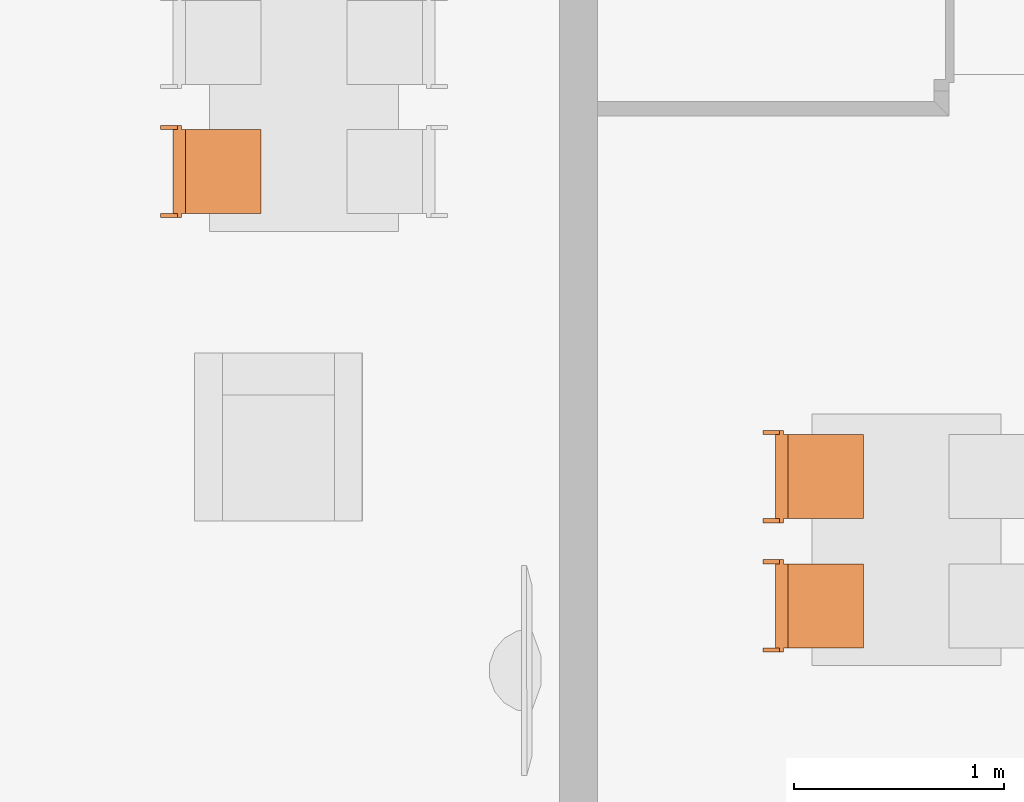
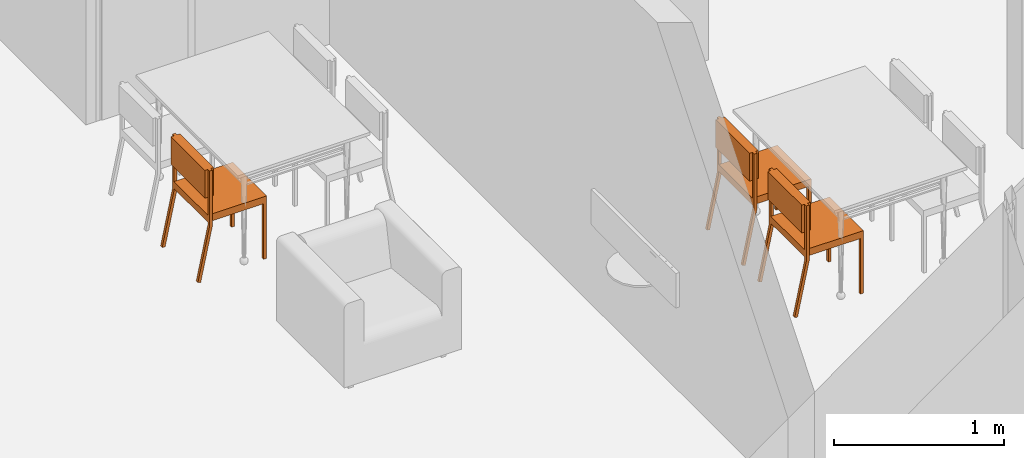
# One storey, part 146 of 171: 3 proxies.
"""IFC2X3 building model written with IfcOpenShell, lengths in millimetres."""

from ifc_helpers import new_model, entity, si_unit, converted_unit, derived_unit, money_unit, direction, frame, origin_with_axes, place, context, subcontext, project, spatial, faceted_brep, source, transform, mapped, type_object, element, save


model = new_model("IFC2X3")

# Units and contexts
model_context = context("Model", 3, precision=0.01, world=origin_with_axes(), true_north=direction((0.0, 1.0)))
body_context = subcontext(model_context, "Body", "Model", "MODEL_VIEW")
ifc_project = project(units=[si_unit("LENGTHUNIT", "METRE", prefix="MILLI"), si_unit("AREAUNIT", "SQUARE_METRE"), si_unit("VOLUMEUNIT", "CUBIC_METRE"), converted_unit("PLANEANGLEUNIT", "DEGREE", entity("IfcPlaneAngleMeasure", 0.0174532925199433), si_unit("PLANEANGLEUNIT", "RADIAN"), dimensions=[0, 0, 0, 0, 0, 0, 0]), money_unit("USD"), converted_unit("TIMEUNIT", "Year", entity("IfcTimeMeasure", 31557600.0), si_unit("TIMEUNIT", "SECOND"), dimensions=[0, 0, 1, 0, 0, 0, 0]), si_unit("MASSUNIT", "GRAM", prefix="KILO"), si_unit("THERMODYNAMICTEMPERATUREUNIT", "DEGREE_CELSIUS"), si_unit("LUMINOUSINTENSITYUNIT", "LUMEN"), si_unit("ENERGYUNIT", "JOULE", prefix="MEGA"), derived_unit("THERMALCONDUCTANCEUNIT", [(si_unit("POWERUNIT", "WATT"), 1), (si_unit("LENGTHUNIT", "METRE"), -1), (si_unit("THERMODYNAMICTEMPERATUREUNIT", "KELVIN"), -1)]), derived_unit("SPECIFICHEATCAPACITYUNIT", [(si_unit("ENERGYUNIT", "JOULE"), 1), (si_unit("MASSUNIT", "GRAM", prefix="KILO"), -1), (si_unit("THERMODYNAMICTEMPERATUREUNIT", "KELVIN"), -1)]), derived_unit("MASSDENSITYUNIT", [(si_unit("MASSUNIT", "GRAM", prefix="KILO"), 1), (si_unit("VOLUMEUNIT", "CUBIC_METRE"), -1)])], contexts=[model_context])

# Site, building, storey
site_placement = place(None, origin_with_axes())
site = spatial("IfcSite", under=ifc_project, at=site_placement, Name="Site", CompositionType="ELEMENT")
building_placement = place(site_placement, origin_with_axes())
building = spatial("IfcBuilding", under=site, at=building_placement, Name="Bâtiment", CompositionType="ELEMENT")
storey_placement = place(building_placement, frame((0.0, 0.0, 3000.0), z_axis=(0.0, 0.0, 1.0), x_axis=(1.0, 0.0, 0.0)))
storey = spatial("IfcBuildingStorey", under=building, at=storey_placement, Name="rdc", CompositionType="ELEMENT", Elevation=3000.0)

# Proxies
building_element_proxy_type = type_object("IfcBuildingElementProxyType", PredefinedType="NOTDEFINED")
shared_shape = source(origin_with_axes(), body_context, "Body", "Brep", [
    faceted_brep([(-39.99999978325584, 0.0, 0.0), (-39.99999978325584, 19.99999936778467, 0.0), (-19.99999989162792, 19.99999936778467, 0.0), (-19.99999989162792, 0.0, 0.0), (-39.99999978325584, 0.0, 400.0), (-39.99999978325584, 19.99999936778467, 400.0), (-19.99999989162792, 19.99999936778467, 400.0), (-19.99999989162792, 0.0, 400.0)], [[[0, 1, 2, 3]], [[0, 4, 5, 1]], [[1, 5, 6, 2]], [[2, 6, 7, 3]], [[3, 7, 4, 0]], [[7, 6, 5, 4]]]),
    faceted_brep([(-419.9999977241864, 0.0, 0.0), (-419.9999977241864, 19.99999936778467, 0.0), (-399.9999978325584, 19.99999936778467, 0.0), (-399.9999978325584, 0.0, 0.0), (-419.9999977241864, 0.0, 400.0), (-419.9999977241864, 19.99999936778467, 400.0), (-399.9999978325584, 19.99999936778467, 400.0), (-399.9999978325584, 0.0, 400.0)], [[[0, 1, 2, 3]], [[0, 4, 5, 1]], [[1, 5, 6, 2]], [[2, 6, 7, 3]], [[3, 7, 4, 0]], [[7, 6, 5, 4]]]),
    faceted_brep([(-399.9999978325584, 0.0, 400.0000000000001), (-399.9999978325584, 19.99999936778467, 400.0000000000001), (-39.99999978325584, 19.99999936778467, 400.0000000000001), (-39.99999978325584, 0.0, 400.0000000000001), (-399.9999978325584, 0.0, 420.0000000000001), (-399.9999978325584, 19.99999936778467, 420.0000000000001), (-39.99999978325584, 19.99999936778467, 420.0000000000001), (-39.99999978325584, 0.0, 420.0000000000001)], [[[0, 1, 2, 3]], [[0, 4, 5, 1]], [[1, 5, 6, 2]], [[2, 6, 7, 3]], [[3, 7, 4, 0]], [[7, 6, 5, 4]]]),
    faceted_brep([(-39.99999978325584, 19.99999936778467, 400.0000000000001), (-39.99999978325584, 379.9999879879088, 400.0000000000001), (-19.99999989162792, 379.9999879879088, 400.0000000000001), (-19.99999989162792, 19.99999936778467, 400.0000000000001), (-39.99999978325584, 19.99999936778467, 420.0000000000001), (-39.99999978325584, 379.9999879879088, 420.0000000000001), (-19.99999989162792, 379.9999879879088, 420.0000000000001), (-19.99999989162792, 19.99999936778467, 420.0000000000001)], [[[0, 1, 2, 3]], [[0, 4, 5, 1]], [[1, 5, 6, 2]], [[2, 6, 7, 3]], [[3, 7, 4, 0]], [[7, 6, 5, 4]]]),
    faceted_brep([(-419.9999977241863, 379.9999879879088, 400.0000000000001), (-419.9999977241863, 399.9999873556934, 400.0000000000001), (-19.99999989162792, 399.9999873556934, 400.0000000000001), (-19.99999989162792, 379.9999879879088, 400.0000000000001), (-419.9999977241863, 379.9999879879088, 420.0000000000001), (-419.9999977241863, 399.9999873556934, 420.0000000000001), (-19.99999989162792, 399.9999873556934, 420.0000000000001), (-19.99999989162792, 379.9999879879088, 420.0000000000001)], [[[0, 1, 2, 3]], [[0, 4, 5, 1]], [[1, 5, 6, 2]], [[2, 6, 7, 3]], [[3, 7, 4, 0]], [[7, 6, 5, 4]]]),
    faceted_brep([(-419.9999977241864, 19.99999936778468, 400.0000000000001), (-419.9999977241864, 379.9999879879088, 400.0000000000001), (-399.9999978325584, 379.9999879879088, 400.0000000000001), (-399.9999978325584, 19.99999936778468, 400.0000000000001), (-419.9999977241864, 19.99999936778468, 420.0000000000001), (-419.9999977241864, 379.9999879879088, 420.0000000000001), (-399.9999978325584, 379.9999879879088, 420.0000000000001), (-399.9999978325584, 19.99999936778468, 420.0000000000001)], [[[0, 1, 2, 3]], [[0, 4, 5, 1]], [[1, 5, 6, 2]], [[2, 6, 7, 3]], [[3, 7, 4, 0]], [[7, 6, 5, 4]]]),
    faceted_brep([(-419.9999977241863, 0.0, 400.0), (-419.9999977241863, 399.9999873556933, 400.0), (-19.99999989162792, 399.9999873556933, 400.0), (-19.99999989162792, 0.0, 400.0), (-419.9999977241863, 0.0, 450.0), (-419.9999977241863, 399.9999873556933, 450.0), (-19.99999989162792, 399.9999873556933, 450.0), (-19.99999989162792, 0.0, 450.0)], [[[0, 1, 2, 3]], [[0, 4, 5, 1]], [[1, 5, 6, 2]], [[2, 6, 7, 3]], [[3, 7, 4, 0]], [[7, 6, 5, 4]]]),
    faceted_brep([(-19.99999989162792, 379.9999879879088, 380.0), (-19.99999989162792, 399.9999873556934, 380.0), (0.0, 399.9999873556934, 380.0), (0.0, 379.9999879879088, 380.0), (-19.99999989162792, 379.9999879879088, 780.0), (-19.99999989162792, 399.9999873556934, 780.0), (0.0, 399.9999873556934, 780.0), (0.0, 379.9999879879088, 780.0)], [[[0, 1, 2, 3]], [[0, 4, 5, 1]], [[1, 5, 6, 2]], [[2, 6, 7, 3]], [[3, 7, 4, 0]], [[7, 6, 5, 4]]]),
    faceted_brep([(-439.9999976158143, 379.9999879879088, 380.0), (-439.9999976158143, 399.9999873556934, 380.0), (-419.9999977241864, 399.9999873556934, 380.0), (-419.9999977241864, 379.9999879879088, 380.0), (-439.9999976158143, 379.9999879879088, 780.0), (-439.9999976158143, 399.9999873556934, 780.0), (-419.9999977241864, 399.9999873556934, 780.0), (-419.9999977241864, 379.9999879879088, 780.0)], [[[0, 1, 2, 3]], [[0, 4, 5, 1]], [[1, 5, 6, 2]], [[2, 6, 7, 3]], [[3, 7, 4, 0]], [[7, 6, 5, 4]]]),
    faceted_brep([(-419.9999977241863, 359.999988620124, 580.0000000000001), (-419.9999977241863, 419.9999867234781, 580.0000000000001), (-19.99999989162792, 419.9999867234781, 580.0000000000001), (-19.99999989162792, 359.999988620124, 580.0000000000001), (-419.9999977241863, 359.999988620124, 780.0), (-419.9999977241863, 419.9999867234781, 780.0), (-19.99999989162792, 419.9999867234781, 780.0), (-19.99999989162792, 359.999988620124, 780.0)], [[[0, 1, 2, 3]], [[0, 4, 5, 1]], [[1, 5, 6, 2]], [[2, 6, 7, 3]], [[3, 7, 4, 0]], [[7, 6, 5, 4]]]),
    faceted_brep([(-19.99999989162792, 459.9999854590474, 0.0), (-19.99999989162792, 479.5709559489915, 4.120326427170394), (0.0, 479.5709559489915, 4.120326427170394), (0.0, 459.9999854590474, 0.0), (-19.99999989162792, 379.997669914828, 379.999760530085), (-19.99999989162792, 399.5686404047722, 384.1200869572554), (0.0, 399.5686404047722, 384.1200869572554), (0.0, 379.997669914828, 379.999760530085)], [[[0, 1, 2, 3]], [[0, 4, 5, 1]], [[1, 5, 6, 2]], [[2, 6, 7, 3]], [[3, 7, 4, 0]], [[7, 6, 5, 4]]]),
    faceted_brep([(-439.9999976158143, 459.9999854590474, 0.0), (-439.9999976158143, 479.5709559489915, 4.120326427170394), (-419.9999977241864, 479.5709559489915, 4.120326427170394), (-419.9999977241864, 459.9999854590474, 0.0), (-439.9999976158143, 379.997669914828, 379.999760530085), (-439.9999976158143, 399.5686404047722, 384.1200869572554), (-419.9999977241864, 399.5686404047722, 384.1200869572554), (-419.9999977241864, 379.997669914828, 379.999760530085)], [[[0, 1, 2, 3]], [[0, 4, 5, 1]], [[1, 5, 6, 2]], [[2, 6, 7, 3]], [[3, 7, 4, 0]], [[7, 6, 5, 4]]]),
])
for number, where, z_axis, x_axis, name in (
    (1, (2222710.641365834, -653368.8440967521, 0.0), (0.0, 0.0, 1.0), (8.510155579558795e-05, 0.9999999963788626, 0.0), "Obj.-027"),
    (2, (2225580.134109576, -655438.2750250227, 0.0), (0.0, 0.0, 1.0), (8.510155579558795e-05, 0.9999999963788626, 0.0), "Obj.-027"),
    (3, (2225580.186457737, -654823.1496223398, 0.0), (0.0, 0.0, 1.0), (8.510155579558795e-05, 0.9999999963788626, 0.0), "Obj.-027"),
):
    element("IfcBuildingElementProxy", number, at=place(storey_placement, frame(where, z_axis=z_axis, x_axis=x_axis)), inside=storey, type_object=building_element_proxy_type, Name=name, context=body_context, shape_type="MappedRepresentation", body=[
        mapped(shared_shape, transform((0.0, 0.0, 0.0))),
    ])

save(model, "model.ifc")
